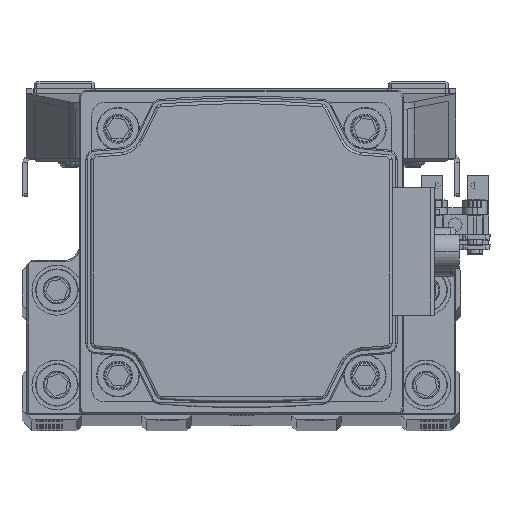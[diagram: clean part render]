
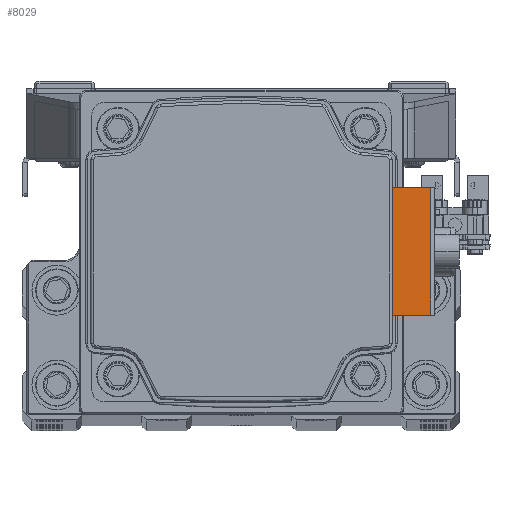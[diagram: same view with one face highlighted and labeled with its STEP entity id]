
A CAD part, top view. The second image highlights one B-rep face of the part: STEP entity #8029.
In plain terms, the highlighted planar face has unit normal (0, 0, 1) as drawn and (0, 0, -1) by its records, which use the part's own axes.
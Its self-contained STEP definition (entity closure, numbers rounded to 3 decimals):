
#1024 = EDGE_CURVE ( 'NONE', #18477, #28165, #46032, .T. ) ;
#2013 = EDGE_CURVE ( 'NONE', #28165, #34454, #25031, .T. ) ;
#2879 = VECTOR ( 'NONE', #27513, 1000. ) ;
#5390 = DIRECTION ( 'NONE',  ( 1., 0., 0. ) ) ;
#5776 = VECTOR ( 'NONE', #26404, 1000. ) ;
#5924 = CARTESIAN_POINT ( 'NONE',  ( 0., 37.9, -88.696 ) ) ;
#7939 = CARTESIAN_POINT ( 'NONE',  ( -12.75, 30.2, -88.696 ) ) ;
#8029 = ADVANCED_FACE ( 'NONE', ( #13663 ), #41329, .T. ) ;
#9178 = DIRECTION ( 'NONE',  ( 0., 1., 0. ) ) ;
#10648 = CARTESIAN_POINT ( 'NONE',  ( -12.75, 37.9, -88.696 ) ) ;
#11604 = EDGE_LOOP ( 'NONE', ( #15730, #27056, #50923, #39482 ) ) ;
#11784 = CARTESIAN_POINT ( 'NONE',  ( 18.438, 30.2, -88.696 ) ) ;
#13663 = FACE_OUTER_BOUND ( 'NONE', #11604, .T. ) ;
#15730 = ORIENTED_EDGE ( 'NONE', *, *, #1024, .T. ) ;
#18477 = VERTEX_POINT ( 'NONE', #7939 ) ;
#18760 = VERTEX_POINT ( 'NONE', #33740 ) ;
#19620 = LINE ( 'NONE', #35378, #49455 ) ;
#21117 = CARTESIAN_POINT ( 'NONE',  ( -12.75, 37.9, -88.696 ) ) ;
#21506 = AXIS2_PLACEMENT_3D ( 'NONE', #5924, #21684, #37438 ) ;
#21684 = DIRECTION ( 'NONE',  ( 0., 0., -1. ) ) ;
#25031 = LINE ( 'NONE', #40793, #32580 ) ;
#26404 = DIRECTION ( 'NONE',  ( 0., 1., 0. ) ) ;
#27056 = ORIENTED_EDGE ( 'NONE', *, *, #2013, .T. ) ;
#27513 = DIRECTION ( 'NONE',  ( 1., 0., 0. ) ) ;
#28165 = VERTEX_POINT ( 'NONE', #21117 ) ;
#32580 = VECTOR ( 'NONE', #5390, 1000. ) ;
#33740 = CARTESIAN_POINT ( 'NONE',  ( 12.75, 30.2, -88.696 ) ) ;
#34454 = VERTEX_POINT ( 'NONE', #38650 ) ;
#34544 = EDGE_CURVE ( 'NONE', #18477, #18760, #47170, .T. ) ;
#35378 = CARTESIAN_POINT ( 'NONE',  ( 12.75, 33.991, -88.696 ) ) ;
#37438 = DIRECTION ( 'NONE',  ( -1., 0., 0. ) ) ;
#38650 = CARTESIAN_POINT ( 'NONE',  ( 12.75, 37.9, -88.696 ) ) ;
#39482 = ORIENTED_EDGE ( 'NONE', *, *, #34544, .F. ) ;
#40793 = CARTESIAN_POINT ( 'NONE',  ( 0., 37.9, -88.696 ) ) ;
#41329 = PLANE ( 'NONE',  #21506 ) ;
#46032 = LINE ( 'NONE', #10648, #5776 ) ;
#47170 = LINE ( 'NONE', #11784, #2879 ) ;
#48522 = EDGE_CURVE ( 'NONE', #18760, #34454, #19620, .T. ) ;
#49455 = VECTOR ( 'NONE', #9178, 1000. ) ;
#50923 = ORIENTED_EDGE ( 'NONE', *, *, #48522, .F. ) ;
